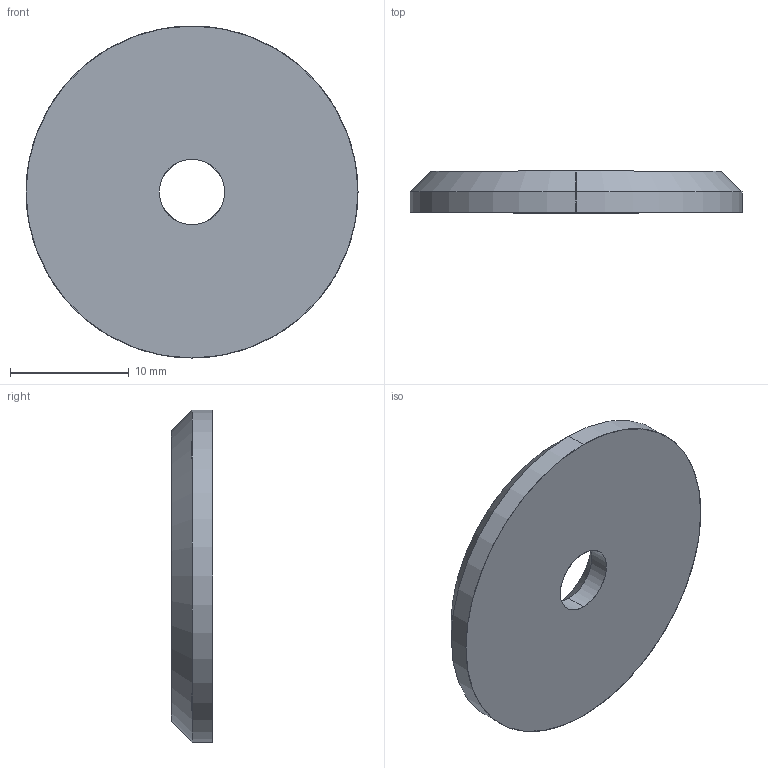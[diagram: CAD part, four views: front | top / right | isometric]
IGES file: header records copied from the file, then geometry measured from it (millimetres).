
Start section: SolidWorks IGES file using analytic representation for surfaces
Global section: file name: C:\Documents and Settings\IANO\Desktop\Temp File\Process pending\EXISTING\36720_v2\36720_v2_20170629_IGES\Default.igs; native system: SolidWorks 2009; preprocessor: SolidWorks 2009; author: IANO; date: 170627.110743; units: millimetre
Bounding box: 28 x 3.5 x 28 mm (x, y, z)
Surface area: 1444.5 mm2 (no closed solid volume)
Topology: 0 solids, 0 shells, 10 faces, 192 edges, 192 vertices
Faces by surface type: revolution 8, bspline 2
